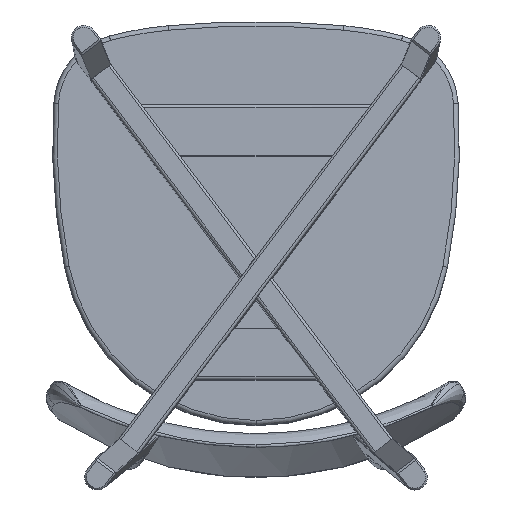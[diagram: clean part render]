
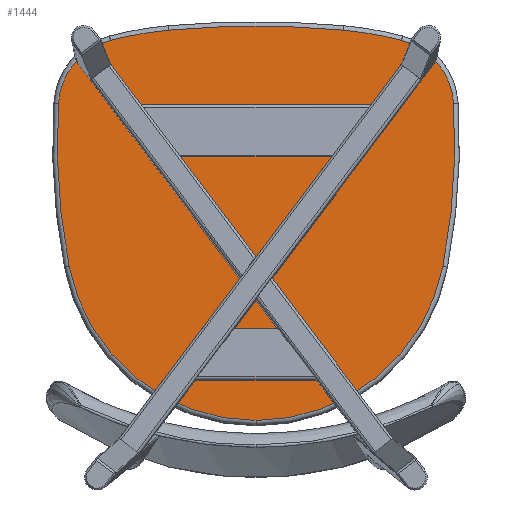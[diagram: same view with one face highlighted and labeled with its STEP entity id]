
A CAD part, front view. The second image highlights one B-rep face of the part: STEP entity #1444.
In plain terms, the highlighted planar face has unit normal (0, -0.999, 0.035).
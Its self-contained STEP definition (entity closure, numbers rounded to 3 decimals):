
#200 = DIRECTION ( 'NONE',  ( 0., -0.035, -0.999 ) ) ;
#240 = CARTESIAN_POINT ( 'NONE',  ( 0., 399.342, -218.714 ) ) ;
#329 = VERTEX_POINT ( 'NONE', #5498 ) ;
#387 = PLANE ( 'NONE',  #636 ) ;
#436 = ORIENTED_EDGE ( 'NONE', *, *, #10553, .T. ) ;
#636 = AXIS2_PLACEMENT_3D ( 'NONE', #12386, #7446, #6463 ) ;
#741 = VERTEX_POINT ( 'NONE', #9219 ) ;
#812 = AXIS2_PLACEMENT_3D ( 'NONE', #12165, #9301, #8267 ) ;
#1002 = ORIENTED_EDGE ( 'NONE', *, *, #2437, .T. ) ;
#1079 = ORIENTED_EDGE ( 'NONE', *, *, #7476, .T. ) ;
#1444 = ADVANCED_FACE ( 'NONE', ( #5405 ), #387, .T. ) ;
#1682 = CIRCLE ( 'NONE', #7160, 400. ) ;
#1704 = EDGE_CURVE ( 'NONE', #11580, #11231, #9850, .T. ) ;
#1739 = VERTEX_POINT ( 'NONE', #6380 ) ;
#1910 = AXIS2_PLACEMENT_3D ( 'NONE', #3760, #9595, #8621 ) ;
#2073 = EDGE_LOOP ( 'NONE', ( #1079, #7207, #3063, #1002, #12937, #9624, #436, #2330, #9897 ) ) ;
#2330 = ORIENTED_EDGE ( 'NONE', *, *, #12112, .T. ) ;
#2437 = EDGE_CURVE ( 'NONE', #741, #11580, #12159, .T. ) ;
#2526 = CARTESIAN_POINT ( 'NONE',  ( 0., 372.121, -998.239 ) ) ;
#2615 = VERTEX_POINT ( 'NONE', #5795 ) ;
#3022 = CARTESIAN_POINT ( 'NONE',  ( 486., 402.621, -124.809 ) ) ;
#3045 = CIRCLE ( 'NONE', #12223, 700. ) ;
#3063 = ORIENTED_EDGE ( 'NONE', *, *, #11585, .T. ) ;
#3310 = CARTESIAN_POINT ( 'NONE',  ( 212.704, 404.107, -82.256 ) ) ;
#3687 = DIRECTION ( 'NONE',  ( 0., -0.035, -0.999 ) ) ;
#3760 = CARTESIAN_POINT ( 'NONE',  ( -56.437, 392.967, -401.263 ) ) ;
#3875 = AXIS2_PLACEMENT_3D ( 'NONE', #240, #11132, #5070 ) ;
#4293 = CIRCLE ( 'NONE', #9737, 700. ) ;
#4688 = EDGE_CURVE ( 'NONE', #11231, #10971, #3045, .T. ) ;
#4966 = EDGE_CURVE ( 'NONE', #7161, #11578, #4293, .T. ) ;
#5070 = DIRECTION ( 'NONE',  ( 0., -0.035, -0.999 ) ) ;
#5405 = FACE_OUTER_BOUND ( 'NONE', #2073, .T. ) ;
#5498 = CARTESIAN_POINT ( 'NONE',  ( 0., 392.188, -423.589 ) ) ;
#5659 = AXIS2_PLACEMENT_3D ( 'NONE', #10987, #6902, #200 ) ;
#5795 = CARTESIAN_POINT ( 'NONE',  ( 156.629, 406.482, -14.25 ) ) ;
#6086 = CIRCLE ( 'NONE', #6298, 1000. ) ;
#6247 = DIRECTION ( 'NONE',  ( 0., -0.035, -0.999 ) ) ;
#6298 = AXIS2_PLACEMENT_3D ( 'NONE', #2526, #12395, #9395 ) ;
#6380 = CARTESIAN_POINT ( 'NONE',  ( 94.062, 406.865, -3.279 ) ) ;
#6448 = DIRECTION ( 'NONE',  ( 0., -0.999, 0.035 ) ) ;
#6463 = DIRECTION ( 'NONE',  ( 0., -0.035, -0.999 ) ) ;
#6514 = CIRCLE ( 'NONE', #812, 205. ) ;
#6539 = CARTESIAN_POINT ( 'NONE',  ( 201.273, 397.984, -257.604 ) ) ;
#6902 = DIRECTION ( 'NONE',  ( 0., -0.999, 0.035 ) ) ;
#7160 = AXIS2_PLACEMENT_3D ( 'NONE', #7232, #11188, #6247 ) ;
#7161 = VERTEX_POINT ( 'NONE', #6539 ) ;
#7207 = ORIENTED_EDGE ( 'NONE', *, *, #12916, .T. ) ;
#7232 = CARTESIAN_POINT ( 'NONE',  ( 56.437, 392.967, -401.263 ) ) ;
#7287 = CARTESIAN_POINT ( 'NONE',  ( -201.273, 397.984, -257.604 ) ) ;
#7320 = CARTESIAN_POINT ( 'NONE',  ( -156.629, 406.482, -14.25 ) ) ;
#7446 = DIRECTION ( 'NONE',  ( 0., -0.999, 0.035 ) ) ;
#7476 = EDGE_CURVE ( 'NONE', #11578, #2615, #11258, .T. ) ;
#7635 = CARTESIAN_POINT ( 'NONE',  ( -486., 402.621, -124.809 ) ) ;
#7750 = DIRECTION ( 'NONE',  ( 0., -0.999, 0.035 ) ) ;
#7862 = CIRCLE ( 'NONE', #3875, 205. ) ;
#8267 = DIRECTION ( 'NONE',  ( 0., -0.035, -0.999 ) ) ;
#8577 = CARTESIAN_POINT ( 'NONE',  ( -212.704, 404.107, -82.256 ) ) ;
#8621 = DIRECTION ( 'NONE',  ( 0., -0.035, -0.999 ) ) ;
#9172 = DIRECTION ( 'NONE',  ( 0., -0.999, 0.035 ) ) ;
#9219 = CARTESIAN_POINT ( 'NONE',  ( -94.062, 406.865, -3.279 ) ) ;
#9301 = DIRECTION ( 'NONE',  ( 0., -0.999, 0.035 ) ) ;
#9395 = DIRECTION ( 'NONE',  ( 0., -0.035, -0.999 ) ) ;
#9595 = DIRECTION ( 'NONE',  ( 0., -0.999, 0.035 ) ) ;
#9624 = ORIENTED_EDGE ( 'NONE', *, *, #4688, .T. ) ;
#9737 = AXIS2_PLACEMENT_3D ( 'NONE', #7635, #7750, #3687 ) ;
#9850 = CIRCLE ( 'NONE', #11527, 75. ) ;
#9897 = ORIENTED_EDGE ( 'NONE', *, *, #4966, .T. ) ;
#10478 = CARTESIAN_POINT ( 'NONE',  ( -137.843, 403.948, -86.815 ) ) ;
#10544 = DIRECTION ( 'NONE',  ( 0., -0.035, -0.999 ) ) ;
#10553 = EDGE_CURVE ( 'NONE', #10971, #329, #7862, .T. ) ;
#10971 = VERTEX_POINT ( 'NONE', #7287 ) ;
#10987 = CARTESIAN_POINT ( 'NONE',  ( 137.843, 403.948, -86.815 ) ) ;
#11132 = DIRECTION ( 'NONE',  ( 0., -0.999, 0.035 ) ) ;
#11188 = DIRECTION ( 'NONE',  ( 0., -0.999, 0.035 ) ) ;
#11231 = VERTEX_POINT ( 'NONE', #8577 ) ;
#11258 = CIRCLE ( 'NONE', #5659, 75. ) ;
#11527 = AXIS2_PLACEMENT_3D ( 'NONE', #10478, #6448, #10544 ) ;
#11578 = VERTEX_POINT ( 'NONE', #3310 ) ;
#11580 = VERTEX_POINT ( 'NONE', #7320 ) ;
#11585 = EDGE_CURVE ( 'NONE', #1739, #741, #6086, .T. ) ;
#11918 = DIRECTION ( 'NONE',  ( 0., -0.035, -0.999 ) ) ;
#12112 = EDGE_CURVE ( 'NONE', #329, #7161, #6514, .T. ) ;
#12159 = CIRCLE ( 'NONE', #1910, 400. ) ;
#12165 = CARTESIAN_POINT ( 'NONE',  ( 0., 399.342, -218.714 ) ) ;
#12223 = AXIS2_PLACEMENT_3D ( 'NONE', #3022, #9172, #11918 ) ;
#12386 = CARTESIAN_POINT ( 'NONE',  ( 28.219, 382.544, -699.751 ) ) ;
#12395 = DIRECTION ( 'NONE',  ( 0., -0.999, 0.035 ) ) ;
#12916 = EDGE_CURVE ( 'NONE', #2615, #1739, #1682, .T. ) ;
#12937 = ORIENTED_EDGE ( 'NONE', *, *, #1704, .T. ) ;
